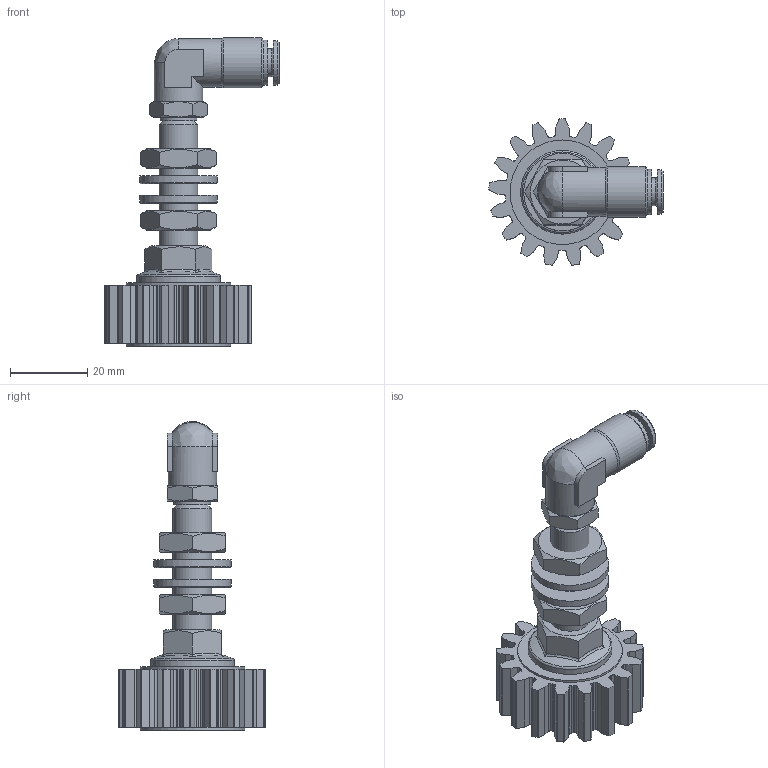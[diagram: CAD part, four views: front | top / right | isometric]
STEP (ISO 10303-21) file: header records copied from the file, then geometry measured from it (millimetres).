
FILE_DESCRIPTION (( 'STEP AP214' ), '1' );
FILE_NAME ('012_13_02_15_17AZ.STEP', '2026-04-01T12:45:28', ( '' ), ( '' ), 'SwSTEP 2.0', 'SolidWorks 2022', '' );
FILE_SCHEMA (( 'AUTOMOTIVE_DESIGN' ));
Length unit declared in the file: millimetre
Products named in the file (13): DR6-C_HDX_25.07.16; H202225_HDS_022_6_M6_28.09.22; Schmierzahnrad_02_15_17_G; H214667-HDS_1-8_M6X1Z; U_Scheibe_10.5; 12012_06_01_Scheibe-CRS-VA_27.SLDASM; R11155-N2; 012_13_02_15_17AZ; Achse_M10_1_Schmierzahnrad; Mutter_M10; 012_06_Senkschraube; OR 7.2X1.9
Assembly tree (14 placements, depth 4):
  012_13_02_15_17AZ
    Schmierzahnrad_02_15_17_G
    Achse_M10_1_Schmierzahnrad
    12012_06_01_Scheibe-CRS-VA_27.SLDASM
    012_06_Senkschraube
    Mutter_M10  x2
    U_Scheibe_10.5  x2
    H202225_HDS_022_6_M6_28.09.22
      R11155-N2
      DR6-C_HDX_25.07.16
      H214667-HDS_1-8_M6X1Z
        H214667-HDS_1-8_M6X1Z
        OR 7.2X1.9
Bounding box: 44.98 x 37.82 x 79.7 mm (x, y, z)
Volume: 24810.1 mm3; surface area: 16923.9 mm2
Topology: 12 solids, 12 shells, 704 faces, 1903 edges, 1259 vertices
Faces by surface type: plane 430, cylinder 125, bspline 95, cone 50, torus 4
Full cylindrical faces by diameter (mm): 2 x1, 4 x1, 4.6 x1, 5 x1, 5.5 x1, 6 x2, 6.2 x1, 6.3 x1, 7.2 x1, 8.5 x2, 9 x2, 9.5 x1, 9.9 x1, 10 x2, 10.1 x2, 10.3 x1, 10.5 x2, 11.5 x1, 11.7 x1, 12.5 x2, 13 x1, 20 x2, 21.6 x1, 27 x2
Entity records: 29566 total; most frequent: CARTESIAN_POINT 11705, ORIENTED_EDGE 3494, DIRECTION 2977, EDGE_CURVE 1747, VERTEX_POINT 1190, LINE 1177, VECTOR 1177, AXIS2_PLACEMENT_3D 900
